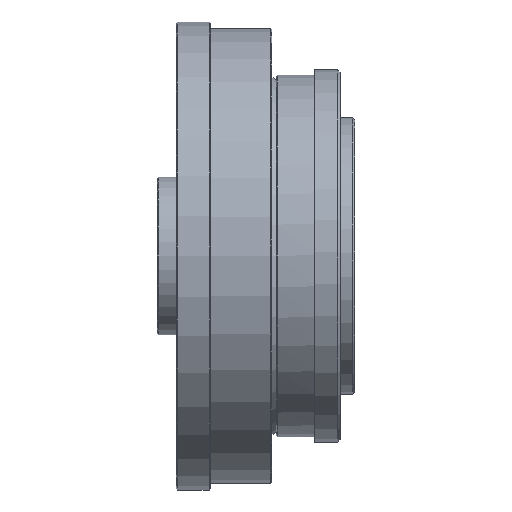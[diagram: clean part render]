
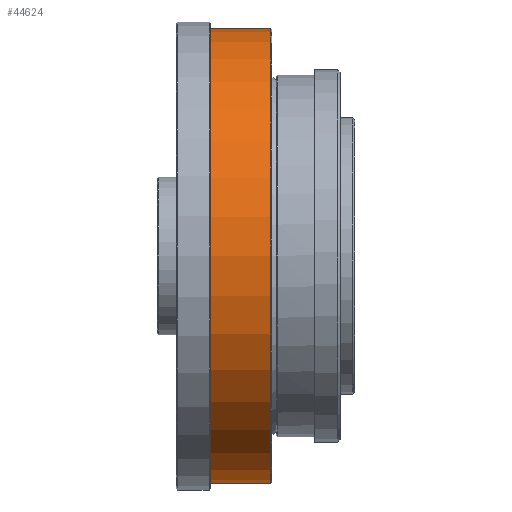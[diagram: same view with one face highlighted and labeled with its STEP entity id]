
A CAD part, front view. The second image highlights one B-rep face of the part: STEP entity #44624.
In plain terms, the highlighted cylindrical face has radius 107 mm (diameter 214 mm), a full revolution.
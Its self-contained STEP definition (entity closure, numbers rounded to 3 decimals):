
#794 = EDGE_CURVE ( 'NONE', #1889, #1889, #4573, .T. ) ;
#1531 = CARTESIAN_POINT ( 'NONE',  ( 53.5, 0., 0. ) ) ;
#1889 = VERTEX_POINT ( 'NONE', #30058 ) ;
#4384 = DIRECTION ( 'NONE',  ( 1., 0., 0. ) ) ;
#4573 = CIRCLE ( 'NONE', #21071, 107. ) ;
#5035 = AXIS2_PLACEMENT_3D ( 'NONE', #40008, #12083, #8202 ) ;
#5603 = ORIENTED_EDGE ( 'NONE', *, *, #29866, .F. ) ;
#7956 = FACE_OUTER_BOUND ( 'NONE', #14900, .T. ) ;
#8202 = DIRECTION ( 'NONE',  ( 0., 1., 0.001 ) ) ;
#10377 = DIRECTION ( 'NONE',  ( -1., 0., 0. ) ) ;
#10706 = CARTESIAN_POINT ( 'NONE',  ( 24.5, -0.067, 107. ) ) ;
#11823 = ORIENTED_EDGE ( 'NONE', *, *, #794, .F. ) ;
#12083 = DIRECTION ( 'NONE',  ( 1., 0., 0. ) ) ;
#14900 = EDGE_LOOP ( 'NONE', ( #11823 ) ) ;
#21071 = AXIS2_PLACEMENT_3D ( 'NONE', #1531, #4384, #35948 ) ;
#27615 = FACE_OUTER_BOUND ( 'NONE', #47716, .T. ) ;
#29575 = AXIS2_PLACEMENT_3D ( 'NONE', #30288, #10377, #41921 ) ;
#29866 = EDGE_CURVE ( 'NONE', #45639, #45639, #51029, .T. ) ;
#30058 = CARTESIAN_POINT ( 'NONE',  ( 53.5, 107., 0.067 ) ) ;
#30288 = CARTESIAN_POINT ( 'NONE',  ( 24.5, 0., 0. ) ) ;
#35948 = DIRECTION ( 'NONE',  ( 0., 1., 0.001 ) ) ;
#40008 = CARTESIAN_POINT ( 'NONE',  ( 71.466, 0., 0. ) ) ;
#41921 = DIRECTION ( 'NONE',  ( 0., -0.001, 1. ) ) ;
#44624 = ADVANCED_FACE ( 'NONE', ( #7956, #27615 ), #47507, .T. ) ;
#45639 = VERTEX_POINT ( 'NONE', #10706 ) ;
#47507 = CYLINDRICAL_SURFACE ( 'NONE', #5035, 107. ) ;
#47716 = EDGE_LOOP ( 'NONE', ( #5603 ) ) ;
#51029 = CIRCLE ( 'NONE', #29575, 107. ) ;
